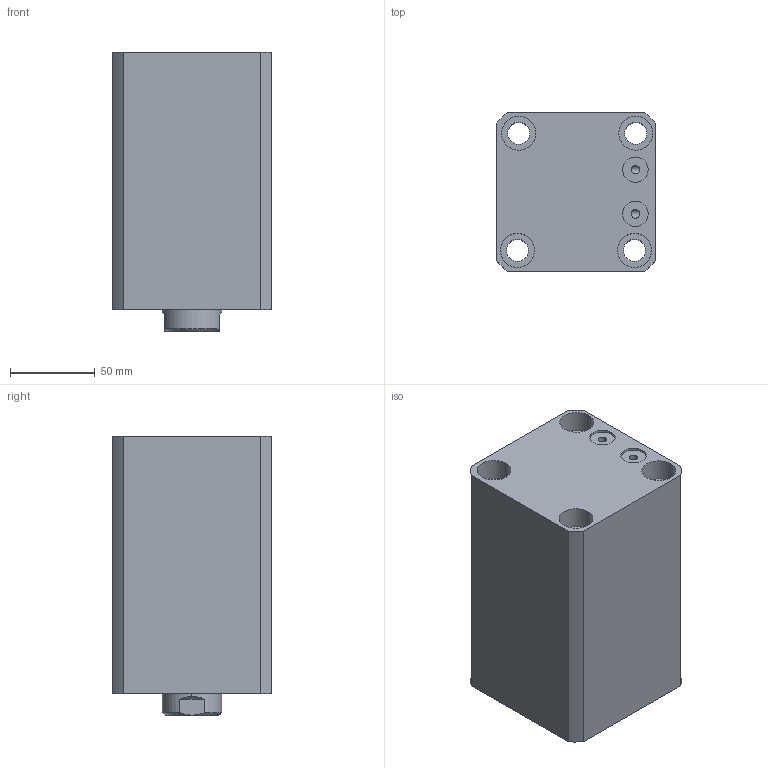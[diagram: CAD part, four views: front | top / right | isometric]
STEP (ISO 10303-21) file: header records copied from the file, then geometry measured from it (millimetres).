
FILE_DESCRIPTION (( 'STEP AP214' ), '1' );
FILE_NAME ('chtb-sdmb63x85n_asm.STEP', '2018-05-16T03:57:47', ( 'Windows' ), ( 'Microsoft' ), 'SwSTEP 2.0', 'SolidWorks 2015', '' );
FILE_SCHEMA (( 'AUTOMOTIVE_DESIGN' ));
Length unit declared in the file: millimetre
Products named in the file (4): CHTB-SDMB63X85NBT; CHTB63X85NHSG; CHTB-63QG; chtb-sdmb63x85n_asm
Assembly tree (3 placements, depth 2):
  chtb-sdmb63x85n_asm
    CHTB-63QG
    CHTB63X85NHSG
    CHTB-SDMB63X85NBT
Bounding box: 94 x 94 x 165 mm (x, y, z)
Volume: 1047610.8 mm3; surface area: 174756.9 mm2
Topology: 3 solids, 3 shells, 164 faces, 468 edges, 318 vertices
Faces by surface type: cylinder 107, plane 30, bspline 12, cone 8, torus 7
Entity records: 17708 total; most frequent: CARTESIAN_POINT 13594, ORIENTED_EDGE 924, DIRECTION 707, EDGE_CURVE 462, VERTEX_POINT 318, AXIS2_PLACEMENT_3D 284, EDGE_LOOP 196, FACE_OUTER_BOUND 164
